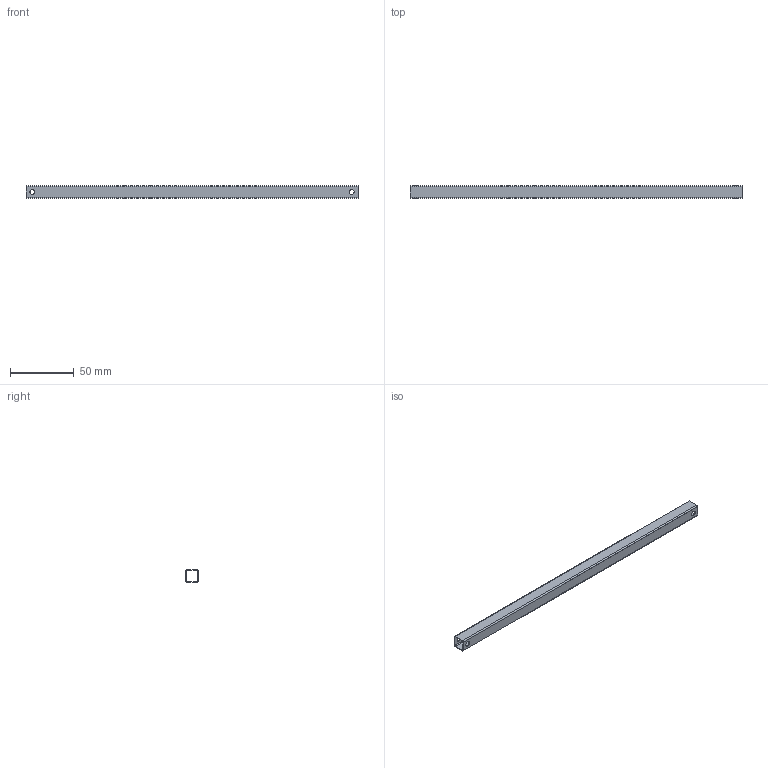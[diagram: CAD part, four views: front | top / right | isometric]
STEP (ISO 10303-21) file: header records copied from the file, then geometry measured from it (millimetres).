
FILE_DESCRIPTION(('CATIA V5 STEP Exchange'),'2;1');
FILE_NAME('E:\Etudes_avions\Sites_web\Apprendre_la_CAO\Sujets\Lampe bureau\Barre.stp','2017-08-03T16:22:54+00:00',('none'),('none'),'CATIA Version 5 Release 21 GA (IN-10)','CATIA V5 STEP AP203','none');
FILE_SCHEMA(('CONFIG_CONTROL_DESIGN'));
Length unit declared in the file: millimetre
Products named in the file (1): Barre
Bounding box: 260 x 10 x 10 mm (x, y, z)
Volume: 4747.5 mm3; surface area: 19051.8 mm2
Topology: 1 solids, 1 shells, 26 faces, 72 edges, 48 vertices
Faces by surface type: cylinder 16, plane 10
Entity records: 878 total; most frequent: CARTESIAN_POINT 181, ORIENTED_EDGE 144, DIRECTION 107, EDGE_CURVE 72, AXIS2_PLACEMENT_3D 48, VERTEX_POINT 48, VECTOR 40, LINE 40
